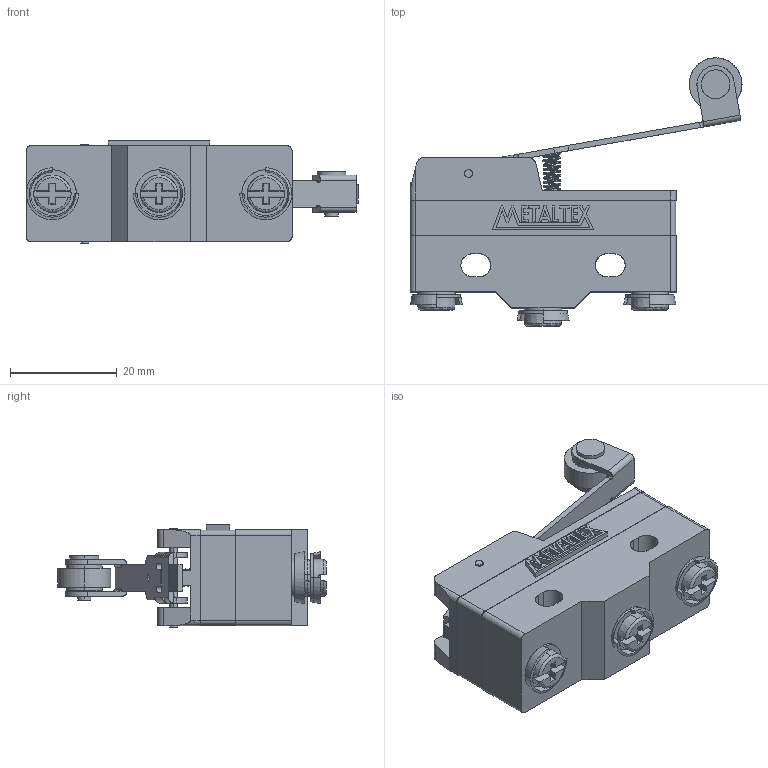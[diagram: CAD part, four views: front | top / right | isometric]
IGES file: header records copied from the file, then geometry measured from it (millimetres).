
Start section: SolidWorks IGES file using analytic representation for surfaces
Global section: file name: D:\X - Arquivos\PROEX\Empresas\P11 - METALTEX\01 - Produtos\IGES\4ª remessa\5ª etapa\FM1703.IGS; native system: SolidWorks 2012; preprocessor: SolidWorks 2012; author: Usuario; date: 180601.134933; units: millimetre
Bounding box: 62.25 x 50.29 x 19.15 mm (x, y, z)
Surface area: 8868.9 mm2 (no closed solid volume)
Topology: 0 solids, 0 shells, 375 faces, 4043 edges, 4043 vertices
Faces by surface type: bspline 260, revolution 115
